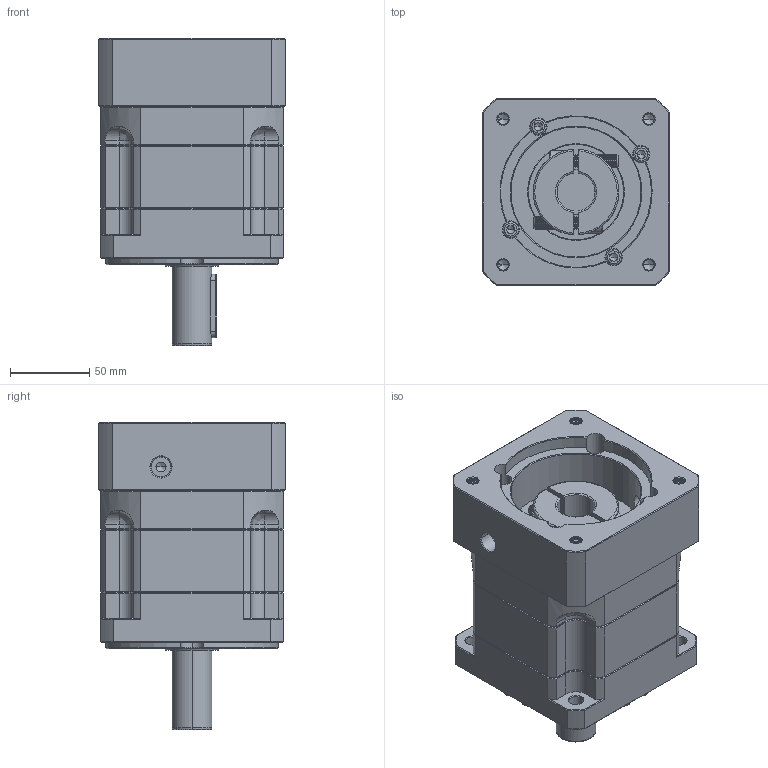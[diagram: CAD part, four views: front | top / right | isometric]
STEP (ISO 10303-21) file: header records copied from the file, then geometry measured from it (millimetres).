
FILE_DESCRIPTION (( 'STEP AP214' ), '1' );
FILE_NAME ('ZB115A-D25-L1-24-95-130-M8.step', '2023-03-02T08:56:42', ( '' ), ( 'Microsoft' ), 'SwSTEP 2.0', 'SolidWorks 2016', '' );
FILE_SCHEMA (( 'AUTOMOTIVE_DESIGN' ));
Length unit declared in the file: millimetre
Products named in the file (1): ZB115A-D25-L1-24-95-130-M8
Bounding box: 118 x 118 x 193.5 mm (x, y, z)
Volume: 1561658 mm3; surface area: 169017.8 mm2
Topology: 6 solids, 6 shells, 2123 faces, 5497 edges, 3465 vertices
Faces by surface type: plane 964, cylinder 444, cone 370, bspline 325, torus 20
Entity records: 113593 total; most frequent: CARTESIAN_POINT 41305, ORIENTED_EDGE 10926, DIRECTION 8970, EDGE_CURVE 5463, VERTEX_POINT 3465, LINE 3380, VECTOR 3380, AXIS2_PLACEMENT_3D 2795
